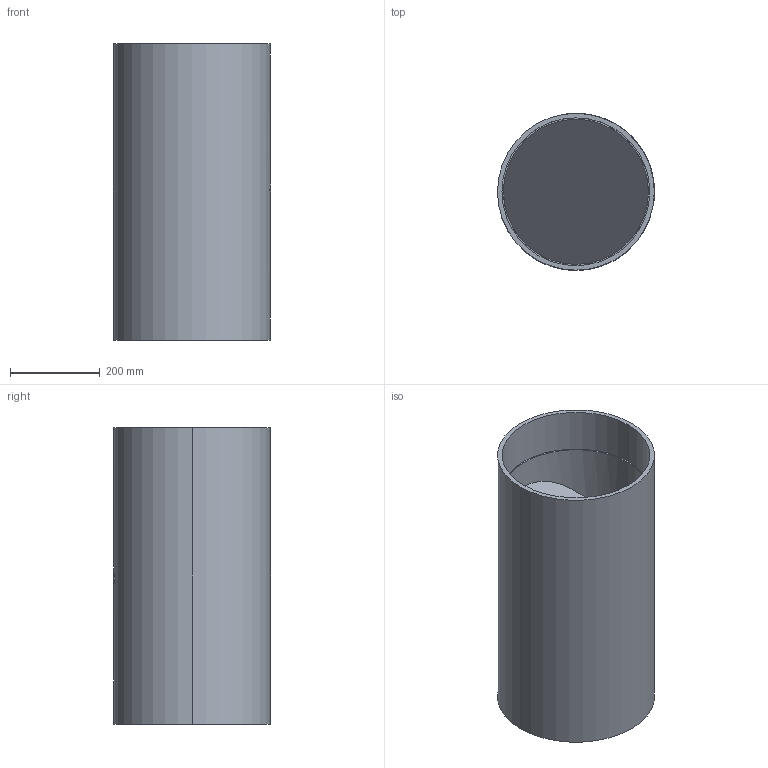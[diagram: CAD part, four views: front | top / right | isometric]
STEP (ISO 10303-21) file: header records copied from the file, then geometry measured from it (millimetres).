
FILE_DESCRIPTION (( 'STEP AP214' ), '1' );
FILE_NAME ('CF-IL-G5-S0350-NN-316-IDP.STEP', '2023-03-21T12:28:55', ( '' ), ( '' ), 'SwSTEP 2.0', 'SolidWorks 2022', '' );
FILE_SCHEMA (( 'AUTOMOTIVE_DESIGN' ));
Length unit declared in the file: millimetre
Products named in the file (3): CF-IL-G5-S0350-NN-316-IDP_CM-0100-B; CF-IL-G5-S0350-NN-316-IDP; Clamp- 350_350
Assembly tree (2 placements, depth 2):
  CF-IL-G5-S0350-NN-316-IDP
    CF-IL-G5-S0350-NN-316-IDP_CM-0100-B
    Clamp- 350_350
Bounding box: 350.5 x 350.5 x 661 mm (x, y, z)
Volume: 9340437.5 mm3; surface area: 1805289.8 mm2
Topology: 6 solids, 6 shells, 1682 faces, 4858 edges, 3225 vertices
Faces by surface type: plane 734, bspline 670, cylinder 143, cone 135
Entity records: 75859 total; most frequent: CARTESIAN_POINT 22749, ORIENTED_EDGE 9716, DIRECTION 4925, EDGE_CURVE 4858, VERTEX_POINT 3225, B_SPLINE_CURVE_WITH_KNOTS 2277, LINE 2221, VECTOR 2221
